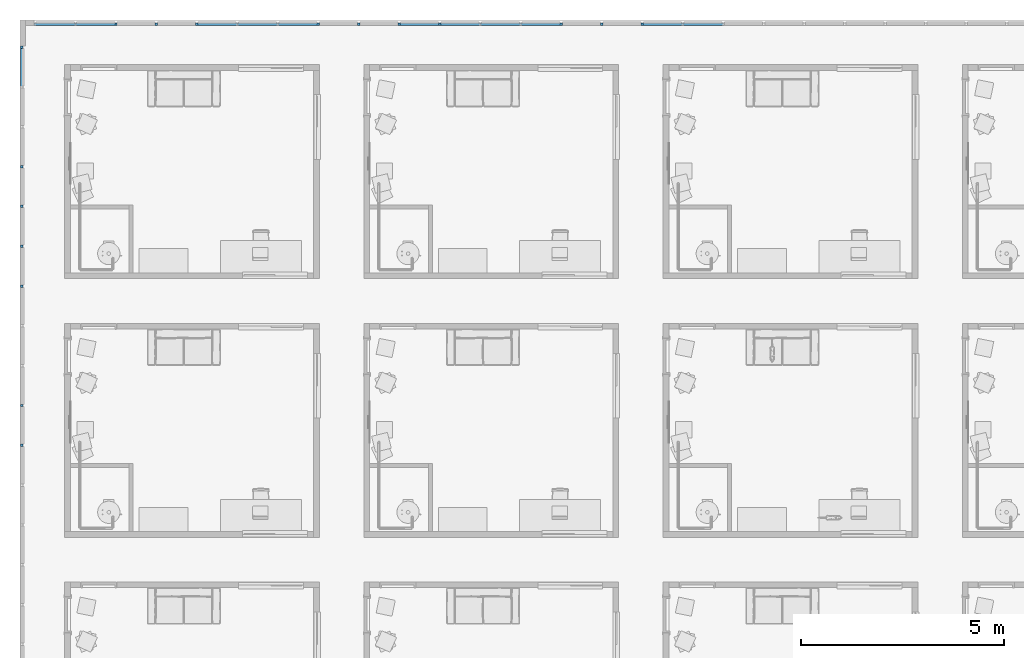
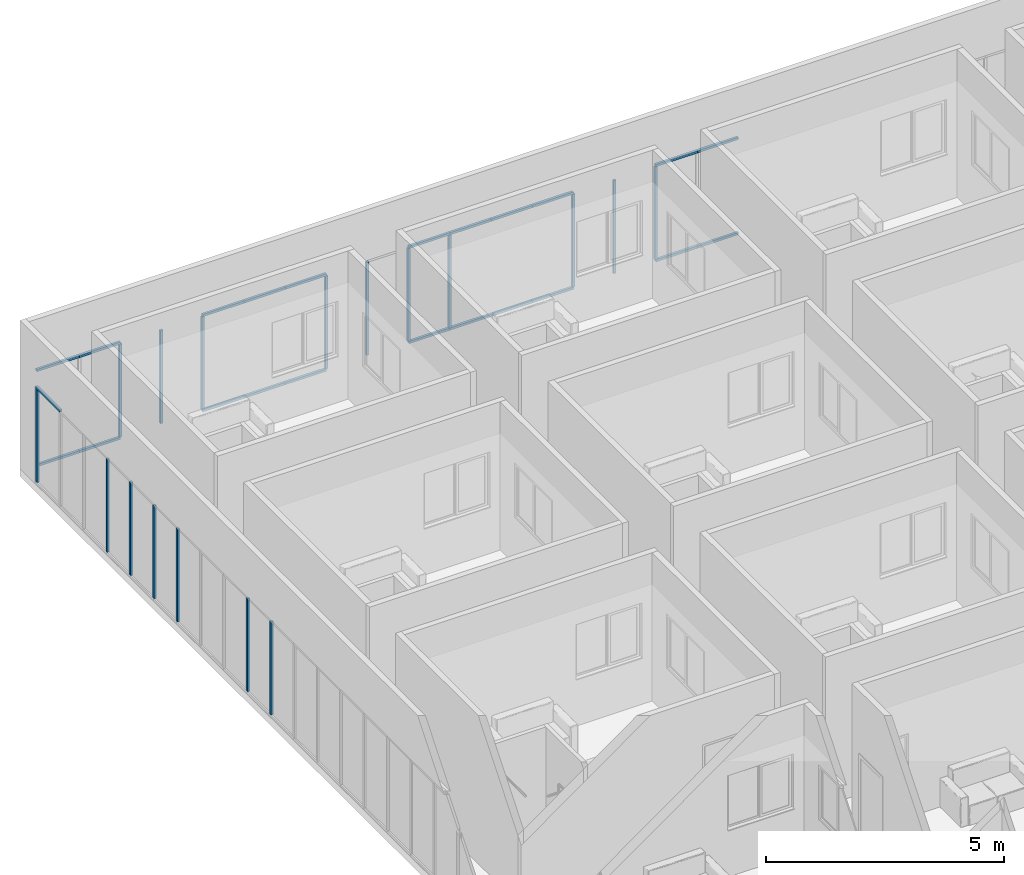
# One storey, part 2 of 71: 40 members, 2 elements without a shape of their own.
"""IFC4 building model written with IfcOpenShell, lengths in centimetres."""

from ifc_helpers import new_model, entity, si_unit, converted_unit, derived_unit, direction, frame, origin, place, context, subcontext, project, spatial, indexed_curve, outline, extrude, source, transform, mapped, material, type_object, type_shapes, element, aggregate, save


model = new_model("IFC4")

# Units and contexts
model_context = context("Model", 3, precision=0.001, world=origin(), true_north=direction((6.123233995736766e-17, 1.0)))
body_context = subcontext(model_context, "Body", "Model", "MODEL_VIEW")
ifc_project = project(units=[si_unit("LENGTHUNIT", "METRE", prefix="CENTI"), si_unit("AREAUNIT", "SQUARE_METRE"), si_unit("VOLUMEUNIT", "CUBIC_METRE"), derived_unit("THERMALTRANSMITTANCEUNIT", [(si_unit("MASSUNIT", "GRAM", prefix="KILO"), 1), (si_unit("THERMODYNAMICTEMPERATUREUNIT", "KELVIN"), -1), (si_unit("TIMEUNIT", "SECOND"), -3)]), converted_unit("PLANEANGLEUNIT", "DEGREE", entity("IfcPlaneAngleMeasure", 0.017453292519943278), si_unit("PLANEANGLEUNIT", "RADIAN"), dimensions=[0, 0, 0, 0, 0, 0, 0]), derived_unit("MASSDENSITYUNIT", [(si_unit("MASSUNIT", "GRAM", prefix="KILO"), 1), (si_unit("LENGTHUNIT", "METRE"), -3)]), derived_unit("VAPORPERMEABILITYUNIT", [(si_unit("LENGTHUNIT", "METRE"), -1), (si_unit("TIMEUNIT", "SECOND"), 1)]), derived_unit("USERDEFINED", [(si_unit("MASSUNIT", "GRAM", prefix="KILO"), 1), (si_unit("TIMEUNIT", "SECOND"), -3), (si_unit("LENGTHUNIT", "METRE"), 3), (si_unit("ELECTRICCURRENTUNIT", "AMPERE"), -2)]), derived_unit("SPECIFICHEATCAPACITYUNIT", [(si_unit("THERMODYNAMICTEMPERATUREUNIT", "KELVIN"), -1), (si_unit("LENGTHUNIT", "METRE"), 2), (si_unit("TIMEUNIT", "SECOND"), -2)]), derived_unit("THERMALCONDUCTANCEUNIT", [(si_unit("MASSUNIT", "GRAM", prefix="KILO"), 1), (si_unit("THERMODYNAMICTEMPERATUREUNIT", "KELVIN"), -1), (si_unit("TIMEUNIT", "SECOND"), -3), (si_unit("LENGTHUNIT", "METRE"), 1)]), si_unit("PRESSUREUNIT", "PASCAL"), derived_unit("MODULUSOFELASTICITYUNIT", [(si_unit("MASSUNIT", "GRAM", prefix="KILO"), 1), (si_unit("LENGTHUNIT", "METRE"), -1), (si_unit("TIMEUNIT", "SECOND"), -2)]), derived_unit("THERMALEXPANSIONCOEFFICIENTUNIT", [(si_unit("THERMODYNAMICTEMPERATUREUNIT", "KELVIN"), -1)])], contexts=[model_context])

# Site, building, storey
site_placement = place(None, origin())
site = spatial("IfcSite", under=ifc_project, at=site_placement, Name="Default", CompositionType="ELEMENT")
building_placement = place(site_placement, origin())
building = spatial("IfcBuilding", under=site, at=building_placement, Name="IDS Escape Game Building", CompositionType="ELEMENT")
storey_placement = place(building_placement, frame((0.0, 0.0, 1200.0)))
storey = spatial("IfcBuildingStorey", under=building, at=storey_placement, Name="03_Third Floor", CompositionType="ELEMENT", Elevation=1200.0)

# Curtain wall, members
curtain_wall_type = type_object("IfcCurtainWallType", Name="Curtain Wall:ARC_31.3_CWA_LIB_bandraam vast 100cm - profiel 60x60_gen_BERSnl", PredefinedType="NOTDEFINED")
curtain_wall_1_placement = place(storey_placement, frame((0.0, 0.0, -1200.0)))
curtain_wall_1 = element("IfcCurtainWall", 1, at=curtain_wall_1_placement, inside=storey, type_object=curtain_wall_type, Name="Curtain Wall:ARC_31.3_CWA_LIB_bandraam vast 100cm - profiel 60x60_gen_BERSnl", ObjectType="Curtain Wall:ARC_31.3_CWA_LIB_bandraam vast 100cm - profiel 60x60_gen_BERSnl", PredefinedType="NOTDEFINED")
ifc_material = material(Name="<Unnamed>")
member_type_1 = type_object("IfcMemberType", Name="Rectangular Mullion:30-_Stijl_Rechthoek_Midden_B60xD60", PredefinedType="MULLION", material=ifc_material)
shared_shape_1 = source(origin(), body_context, "Body", "SweptSolid", [
    extrude(outline(indexed_curve([(-3.0, -3.0), (3.0, -3.0), (3.0, 3.0), (-3.0, 3.0), (-3.0, -3.0)], self_intersect=False)), frame((-3.0, 3.0, -102.84313728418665), z_axis=(0.0, 0.0, 1.0), x_axis=(-1.0, 0.0, 0.0)), (0.0, 0.0, 1.0), 102.84313728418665),
])
type_shapes(member_type_1, [shared_shape_1])
member_1_placement = place(curtain_wall_1_placement, frame((19.84313728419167, 3182.0, 1450.0), z_axis=(1.0, 0.0, 0.0), x_axis=(0.0, 0.0, 1.0)))
member_1 = element("IfcMember", 2, at=member_1_placement, type_object=member_type_1, material=ifc_material, Name="Rectangular Mullion:30-_Stijl_Rechthoek_Midden_B60xD60", ObjectType="Rectangular Mullion:30-_Stijl_Rechthoek_Midden_B60xD60", PredefinedType="MULLION", context=body_context, shape_type="MappedRepresentation", body=[
    mapped(shared_shape_1, transform((0.0, 0.0, 0.0), scale=1.0)),
])
member_type_2 = type_object("IfcMemberType", Name="Rectangular Mullion:30-_Stijl_Rechthoek_Midden_B60xD60", PredefinedType="MULLION", material=ifc_material)
shared_shape_2 = source(origin(), body_context, "Body", "SweptSolid", [
    extrude(outline(indexed_curve([(-3.0, -3.0), (3.0, -3.0), (3.0, 3.0), (-3.0, 3.0), (-3.0, -3.0)], self_intersect=False)), frame((-3.0, 3.0, -99.84313725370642), z_axis=(0.0, 0.0, 1.0), x_axis=(-1.0, 0.0, 0.0)), (0.0, 0.0, 1.0), 99.84313725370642),
])
type_shapes(member_type_2, [shared_shape_2])
member_2_placement = place(curtain_wall_1_placement, frame((119.68627453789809, 3182.0, 1450.0), z_axis=(1.0, 0.0, 0.0), x_axis=(0.0, 0.0, 1.0)))
member_2 = element("IfcMember", 3, at=member_2_placement, type_object=member_type_2, material=ifc_material, Name="Rectangular Mullion:30-_Stijl_Rechthoek_Midden_B60xD60", ObjectType="Rectangular Mullion:30-_Stijl_Rechthoek_Midden_B60xD60", PredefinedType="MULLION", context=body_context, shape_type="MappedRepresentation", body=[
    mapped(shared_shape_2, transform((0.0, 0.0, 0.0), scale=1.0)),
])
member_3_placement = place(curtain_wall_1_placement, frame((419.2156862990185, 3182.0, 1450.0), z_axis=(1.0, 0.0, 0.0), x_axis=(0.0, 0.0, 1.0)))
member_3 = element("IfcMember", 4, at=member_3_placement, type_object=member_type_2, material=ifc_material, Name="Rectangular Mullion:30-_Stijl_Rechthoek_Midden_B60xD60", ObjectType="Rectangular Mullion:30-_Stijl_Rechthoek_Midden_B60xD60", PredefinedType="MULLION", context=body_context, shape_type="MappedRepresentation", body=[
    mapped(shared_shape_2, transform((0.0, 0.0, 0.0), scale=1.0)),
])
member_4_placement = place(curtain_wall_1_placement, frame((519.0588235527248, 3182.0, 1450.0), z_axis=(1.0, 0.0, 0.0), x_axis=(0.0, 0.0, 1.0)))
member_4 = element("IfcMember", 5, at=member_4_placement, type_object=member_type_2, material=ifc_material, Name="Rectangular Mullion:30-_Stijl_Rechthoek_Midden_B60xD60", ObjectType="Rectangular Mullion:30-_Stijl_Rechthoek_Midden_B60xD60", PredefinedType="MULLION", context=body_context, shape_type="MappedRepresentation", body=[
    mapped(shared_shape_2, transform((0.0, 0.0, 0.0), scale=1.0)),
])
member_5_placement = place(curtain_wall_1_placement, frame((618.9019608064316, 3182.0, 1450.0), z_axis=(1.0, 0.0, 0.0), x_axis=(0.0, 0.0, 1.0)))
member_5 = element("IfcMember", 6, at=member_5_placement, type_object=member_type_2, material=ifc_material, Name="Rectangular Mullion:30-_Stijl_Rechthoek_Midden_B60xD60", ObjectType="Rectangular Mullion:30-_Stijl_Rechthoek_Midden_B60xD60", PredefinedType="MULLION", context=body_context, shape_type="MappedRepresentation", body=[
    mapped(shared_shape_2, transform((0.0, 0.0, 0.0), scale=1.0)),
])
member_6_placement = place(curtain_wall_1_placement, frame((918.4313725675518, 3182.0, 1450.0), z_axis=(1.0, 0.0, 0.0), x_axis=(0.0, 0.0, 1.0)))
member_6 = element("IfcMember", 7, at=member_6_placement, type_object=member_type_2, material=ifc_material, Name="Rectangular Mullion:30-_Stijl_Rechthoek_Midden_B60xD60", ObjectType="Rectangular Mullion:30-_Stijl_Rechthoek_Midden_B60xD60", PredefinedType="MULLION", context=body_context, shape_type="MappedRepresentation", body=[
    mapped(shared_shape_2, transform((0.0, 0.0, 0.0), scale=1.0)),
])
member_7_placement = place(curtain_wall_1_placement, frame((1018.2745098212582, 3182.0, 1450.0), z_axis=(1.0, 0.0, 0.0), x_axis=(0.0, 0.0, 1.0)))
member_7 = element("IfcMember", 8, at=member_7_placement, type_object=member_type_2, material=ifc_material, Name="Rectangular Mullion:30-_Stijl_Rechthoek_Midden_B60xD60", ObjectType="Rectangular Mullion:30-_Stijl_Rechthoek_Midden_B60xD60", PredefinedType="MULLION", context=body_context, shape_type="MappedRepresentation", body=[
    mapped(shared_shape_2, transform((0.0, 0.0, 0.0), scale=1.0)),
])
member_8_placement = place(curtain_wall_1_placement, frame((1118.1176470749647, 3182.0, 1450.0), z_axis=(1.0, 0.0, 0.0), x_axis=(0.0, 0.0, 1.0)))
member_8 = element("IfcMember", 9, at=member_8_placement, type_object=member_type_2, material=ifc_material, Name="Rectangular Mullion:30-_Stijl_Rechthoek_Midden_B60xD60", ObjectType="Rectangular Mullion:30-_Stijl_Rechthoek_Midden_B60xD60", PredefinedType="MULLION", context=body_context, shape_type="MappedRepresentation", body=[
    mapped(shared_shape_2, transform((0.0, 0.0, 0.0), scale=1.0)),
])
member_9_placement = place(curtain_wall_1_placement, frame((1217.960784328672, 3182.0, 1450.0), z_axis=(1.0, 0.0, 0.0), x_axis=(0.0, 0.0, 1.0)))
member_9 = element("IfcMember", 10, at=member_9_placement, type_object=member_type_2, material=ifc_material, Name="Rectangular Mullion:30-_Stijl_Rechthoek_Midden_B60xD60", ObjectType="Rectangular Mullion:30-_Stijl_Rechthoek_Midden_B60xD60", PredefinedType="MULLION", context=body_context, shape_type="MappedRepresentation", body=[
    mapped(shared_shape_2, transform((0.0, 0.0, 0.0), scale=1.0)),
])
member_10_placement = place(curtain_wall_1_placement, frame((1517.490196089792, 3182.0, 1450.0), z_axis=(1.0, 0.0, 0.0), x_axis=(0.0, 0.0, 1.0)))
member_10 = element("IfcMember", 11, at=member_10_placement, type_object=member_type_2, material=ifc_material, Name="Rectangular Mullion:30-_Stijl_Rechthoek_Midden_B60xD60", ObjectType="Rectangular Mullion:30-_Stijl_Rechthoek_Midden_B60xD60", PredefinedType="MULLION", context=body_context, shape_type="MappedRepresentation", body=[
    mapped(shared_shape_2, transform((0.0, 0.0, 0.0), scale=1.0)),
])
member_11_placement = place(curtain_wall_1_placement, frame((1617.3333333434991, 3182.0, 1450.0), z_axis=(1.0, 0.0, 0.0), x_axis=(0.0, 0.0, 1.0)))
member_11 = element("IfcMember", 12, at=member_11_placement, type_object=member_type_2, material=ifc_material, Name="Rectangular Mullion:30-_Stijl_Rechthoek_Midden_B60xD60", ObjectType="Rectangular Mullion:30-_Stijl_Rechthoek_Midden_B60xD60", PredefinedType="MULLION", context=body_context, shape_type="MappedRepresentation", body=[
    mapped(shared_shape_2, transform((0.0, 0.0, 0.0), scale=1.0)),
])
member_type_3 = type_object("IfcMemberType", Name="Rectangular Mullion:30-_Stijl_Rechthoek_Midden_B60xD60", PredefinedType="MULLION", material=ifc_material)
shared_shape_3 = source(origin(), body_context, "Body", "SweptSolid", [
    extrude(outline(indexed_curve([(-3.0, -3.0), (3.0, -3.0), (3.0, 3.0), (-3.0, 3.0), (-3.0, -3.0)], self_intersect=False)), frame((-3.0, 3.0, -102.84313728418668), z_axis=(0.0, 0.0, 1.0), x_axis=(-1.0, 0.0, 0.0)), (0.0, 0.0, 1.0), 102.84313728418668),
])
type_shapes(member_type_3, [shared_shape_3])
member_12_placement = place(curtain_wall_1_placement, frame((-83.0, 3182.0, 1200.0), z_axis=(-1.0, 0.0, 0.0), x_axis=(0.0, 0.0, -1.0)))
member_12 = element("IfcMember", 13, at=member_12_placement, type_object=member_type_3, material=ifc_material, Name="Rectangular Mullion:30-_Stijl_Rechthoek_Midden_B60xD60", ObjectType="Rectangular Mullion:30-_Stijl_Rechthoek_Midden_B60xD60", PredefinedType="MULLION", context=body_context, shape_type="MappedRepresentation", body=[
    mapped(shared_shape_3, transform((0.0, 0.0, 0.0), scale=1.0)),
])
member_type_4 = type_object("IfcMemberType", Name="Rectangular Mullion:30-_Stijl_Rechthoek_Midden_B60xD60", PredefinedType="MULLION", material=ifc_material)
shared_shape_4 = source(origin(), body_context, "Body", "SweptSolid", [
    extrude(outline(indexed_curve([(-3.0, -3.0), (3.0, -3.0), (3.0, 3.0), (-3.0, 3.0), (-3.0, -3.0)], self_intersect=False)), frame((-3.0, 3.0, -99.84313725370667), z_axis=(0.0, 0.0, 1.0), x_axis=(-1.0, 0.0, 0.0)), (0.0, 0.0, 1.0), 99.84313725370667),
])
type_shapes(member_type_4, [shared_shape_4])
member_13_placement = place(curtain_wall_1_placement, frame((19.843137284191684, 3182.0, 1200.0), z_axis=(-1.0, 0.0, 0.0), x_axis=(0.0, 0.0, -1.0)))
member_13 = element("IfcMember", 14, at=member_13_placement, type_object=member_type_4, material=ifc_material, Name="Rectangular Mullion:30-_Stijl_Rechthoek_Midden_B60xD60", ObjectType="Rectangular Mullion:30-_Stijl_Rechthoek_Midden_B60xD60", PredefinedType="MULLION", context=body_context, shape_type="MappedRepresentation", body=[
    mapped(shared_shape_4, transform((0.0, 0.0, 0.0), scale=1.0)),
])
member_14_placement = place(curtain_wall_1_placement, frame((319.3725490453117, 3182.0, 1200.0), z_axis=(-1.0, 0.0, 0.0), x_axis=(0.0, 0.0, -1.0)))
member_14 = element("IfcMember", 15, at=member_14_placement, type_object=member_type_4, material=ifc_material, Name="Rectangular Mullion:30-_Stijl_Rechthoek_Midden_B60xD60", ObjectType="Rectangular Mullion:30-_Stijl_Rechthoek_Midden_B60xD60", PredefinedType="MULLION", context=body_context, shape_type="MappedRepresentation", body=[
    mapped(shared_shape_4, transform((0.0, 0.0, 0.0), scale=1.0)),
])
member_15_placement = place(curtain_wall_1_placement, frame((419.2156862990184, 3182.0, 1200.0), z_axis=(-1.0, 0.0, 0.0), x_axis=(0.0, 0.0, -1.0)))
member_15 = element("IfcMember", 16, at=member_15_placement, type_object=member_type_4, material=ifc_material, Name="Rectangular Mullion:30-_Stijl_Rechthoek_Midden_B60xD60", ObjectType="Rectangular Mullion:30-_Stijl_Rechthoek_Midden_B60xD60", PredefinedType="MULLION", context=body_context, shape_type="MappedRepresentation", body=[
    mapped(shared_shape_4, transform((0.0, 0.0, 0.0), scale=1.0)),
])
member_16_placement = place(curtain_wall_1_placement, frame((519.0588235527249, 3182.0, 1200.0), z_axis=(-1.0, 0.0, 0.0), x_axis=(0.0, 0.0, -1.0)))
member_16 = element("IfcMember", 17, at=member_16_placement, type_object=member_type_4, material=ifc_material, Name="Rectangular Mullion:30-_Stijl_Rechthoek_Midden_B60xD60", ObjectType="Rectangular Mullion:30-_Stijl_Rechthoek_Midden_B60xD60", PredefinedType="MULLION", context=body_context, shape_type="MappedRepresentation", body=[
    mapped(shared_shape_4, transform((0.0, 0.0, 0.0), scale=1.0)),
])
member_17_placement = place(curtain_wall_1_placement, frame((818.5882353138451, 3182.0, 1200.0), z_axis=(-1.0, 0.0, 0.0), x_axis=(0.0, 0.0, -1.0)))
member_17 = element("IfcMember", 18, at=member_17_placement, type_object=member_type_4, material=ifc_material, Name="Rectangular Mullion:30-_Stijl_Rechthoek_Midden_B60xD60", ObjectType="Rectangular Mullion:30-_Stijl_Rechthoek_Midden_B60xD60", PredefinedType="MULLION", context=body_context, shape_type="MappedRepresentation", body=[
    mapped(shared_shape_4, transform((0.0, 0.0, 0.0), scale=1.0)),
])
member_18_placement = place(curtain_wall_1_placement, frame((918.4313725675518, 3182.0, 1200.0), z_axis=(-1.0, 0.0, 0.0), x_axis=(0.0, 0.0, -1.0)))
member_18 = element("IfcMember", 19, at=member_18_placement, type_object=member_type_4, material=ifc_material, Name="Rectangular Mullion:30-_Stijl_Rechthoek_Midden_B60xD60", ObjectType="Rectangular Mullion:30-_Stijl_Rechthoek_Midden_B60xD60", PredefinedType="MULLION", context=body_context, shape_type="MappedRepresentation", body=[
    mapped(shared_shape_4, transform((0.0, 0.0, 0.0), scale=1.0)),
])
member_19_placement = place(curtain_wall_1_placement, frame((1018.2745098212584, 3182.0, 1200.0), z_axis=(-1.0, 0.0, 0.0), x_axis=(0.0, 0.0, -1.0)))
member_19 = element("IfcMember", 20, at=member_19_placement, type_object=member_type_4, material=ifc_material, Name="Rectangular Mullion:30-_Stijl_Rechthoek_Midden_B60xD60", ObjectType="Rectangular Mullion:30-_Stijl_Rechthoek_Midden_B60xD60", PredefinedType="MULLION", context=body_context, shape_type="MappedRepresentation", body=[
    mapped(shared_shape_4, transform((0.0, 0.0, 0.0), scale=1.0)),
])
member_20_placement = place(curtain_wall_1_placement, frame((1118.1176470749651, 3182.0, 1200.0), z_axis=(-1.0, 0.0, 0.0), x_axis=(0.0, 0.0, -1.0)))
member_20 = element("IfcMember", 21, at=member_20_placement, type_object=member_type_4, material=ifc_material, Name="Rectangular Mullion:30-_Stijl_Rechthoek_Midden_B60xD60", ObjectType="Rectangular Mullion:30-_Stijl_Rechthoek_Midden_B60xD60", PredefinedType="MULLION", context=body_context, shape_type="MappedRepresentation", body=[
    mapped(shared_shape_4, transform((0.0, 0.0, 0.0), scale=1.0)),
])
member_21_placement = place(curtain_wall_1_placement, frame((1417.6470588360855, 3182.0, 1200.0), z_axis=(-1.0, 0.0, 0.0), x_axis=(0.0, 0.0, -1.0)))
member_21 = element("IfcMember", 22, at=member_21_placement, type_object=member_type_4, material=ifc_material, Name="Rectangular Mullion:30-_Stijl_Rechthoek_Midden_B60xD60", ObjectType="Rectangular Mullion:30-_Stijl_Rechthoek_Midden_B60xD60", PredefinedType="MULLION", context=body_context, shape_type="MappedRepresentation", body=[
    mapped(shared_shape_4, transform((0.0, 0.0, 0.0), scale=1.0)),
])
member_22_placement = place(curtain_wall_1_placement, frame((1517.4901960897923, 3182.0, 1200.0), z_axis=(-1.0, 0.0, 0.0), x_axis=(0.0, 0.0, -1.0)))
member_22 = element("IfcMember", 23, at=member_22_placement, type_object=member_type_4, material=ifc_material, Name="Rectangular Mullion:30-_Stijl_Rechthoek_Midden_B60xD60", ObjectType="Rectangular Mullion:30-_Stijl_Rechthoek_Midden_B60xD60", PredefinedType="MULLION", context=body_context, shape_type="MappedRepresentation", body=[
    mapped(shared_shape_4, transform((0.0, 0.0, 0.0), scale=1.0)),
])

# Curtain wall, member
curtain_wall_2_placement = place(storey_placement, frame((0.0, 0.0, -1200.0)))
curtain_wall_2 = element("IfcCurtainWall", 24, at=curtain_wall_2_placement, inside=storey, type_object=curtain_wall_type, Name="Curtain Wall:ARC_31.3_CWA_LIB_bandraam vast 100cm - profiel 60x60_gen_BERSnl", ObjectType="Curtain Wall:ARC_31.3_CWA_LIB_bandraam vast 100cm - profiel 60x60_gen_BERSnl", PredefinedType="NOTDEFINED")
member_type_5 = type_object("IfcMemberType", Name="Rectangular Mullion:30-_Stijl_Rechthoek_Midden_B60xD60", PredefinedType="MULLION", material=ifc_material)
shared_shape_5 = source(origin(), body_context, "Body", "SweptSolid", [
    extrude(outline(indexed_curve([(-3.0, -3.0), (3.0, -3.0), (3.0, 3.0), (-3.0, 3.0), (-3.0, -3.0)], self_intersect=False)), frame((-3.0, 3.0, -238.0), z_axis=(0.0, 0.0, 1.0), x_axis=(-1.0, 0.0, 0.0)), (0.0, 0.0, 1.0), 238.00000000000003),
])
type_shapes(member_type_5, [shared_shape_5])
member_23_placement = place(curtain_wall_2_placement, frame((-110.0, 3125.0, 1444.0), z_axis=(0.0, 0.0, 1.0), x_axis=(0.0, 1.0, 0.0)))
member_23 = element("IfcMember", 25, at=member_23_placement, type_object=member_type_5, material=ifc_material, Name="Rectangular Mullion:30-_Stijl_Rechthoek_Midden_B60xD60", ObjectType="Rectangular Mullion:30-_Stijl_Rechthoek_Midden_B60xD60", PredefinedType="MULLION", context=body_context, shape_type="MappedRepresentation", body=[
    mapped(shared_shape_5, transform((0.0, 0.0, 0.0), scale=1.0)),
])

# Member
member_type_6 = type_object("IfcMemberType", Name="Rectangular Mullion:30-_Stijl_Rechthoek_Midden_B60xD60", PredefinedType="MULLION", material=ifc_material)
shared_shape_6 = source(origin(), body_context, "Body", "SweptSolid", [
    extrude(outline(indexed_curve([(-3.0, -3.0), (3.0, -3.0), (3.0, 3.0), (-3.0, 3.0), (-3.0, -3.0)], self_intersect=False)), frame((0.0, 3.0, -238.0), z_axis=(0.0, 0.0, 1.0), x_axis=(-1.0, 0.0, 0.0)), (0.0, 0.0, 1.0), 238.00000000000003),
])
type_shapes(member_type_6, [shared_shape_6])
member_24_placement = place(curtain_wall_1_placement, frame((119.68627453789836, 3182.0, 1206.0), z_axis=(0.0, 0.0, -1.0), x_axis=(1.0, 0.0, 0.0)))
member_24 = element("IfcMember", 26, at=member_24_placement, type_object=member_type_6, material=ifc_material, Name="Rectangular Mullion:30-_Stijl_Rechthoek_Midden_B60xD60", ObjectType="Rectangular Mullion:30-_Stijl_Rechthoek_Midden_B60xD60", PredefinedType="MULLION", context=body_context, shape_type="MappedRepresentation", body=[
    mapped(shared_shape_6, transform((0.0, 0.0, 0.0), scale=1.0)),
])

member_25_placement = place(curtain_wall_1_placement, frame((219.52941179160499, 3182.0, 1206.0), z_axis=(0.0, 0.0, -1.0), x_axis=(1.0, 0.0, 0.0)))
member_25 = element("IfcMember", 27, at=member_25_placement, type_object=member_type_6, material=ifc_material, Name="Rectangular Mullion:30-_Stijl_Rechthoek_Midden_B60xD60", ObjectType="Rectangular Mullion:30-_Stijl_Rechthoek_Midden_B60xD60", PredefinedType="MULLION", context=body_context, shape_type="MappedRepresentation", body=[
    mapped(shared_shape_6, transform((0.0, 0.0, 0.0), scale=1.0)),
])

member_26_placement = place(curtain_wall_1_placement, frame((319.3725490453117, 3182.0, 1206.0), z_axis=(0.0, 0.0, -1.0), x_axis=(1.0, 0.0, 0.0)))
member_26 = element("IfcMember", 28, at=member_26_placement, type_object=member_type_6, material=ifc_material, Name="Rectangular Mullion:30-_Stijl_Rechthoek_Midden_B60xD60", ObjectType="Rectangular Mullion:30-_Stijl_Rechthoek_Midden_B60xD60", PredefinedType="MULLION", context=body_context, shape_type="MappedRepresentation", body=[
    mapped(shared_shape_6, transform((0.0, 0.0, 0.0), scale=1.0)),
])

member_27_placement = place(curtain_wall_1_placement, frame((618.9019608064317, 3182.0, 1206.0), z_axis=(0.0, 0.0, -1.0), x_axis=(1.0, 0.0, 0.0)))
member_27 = element("IfcMember", 29, at=member_27_placement, type_object=member_type_6, material=ifc_material, Name="Rectangular Mullion:30-_Stijl_Rechthoek_Midden_B60xD60", ObjectType="Rectangular Mullion:30-_Stijl_Rechthoek_Midden_B60xD60", PredefinedType="MULLION", context=body_context, shape_type="MappedRepresentation", body=[
    mapped(shared_shape_6, transform((0.0, 0.0, 0.0), scale=1.0)),
])

member_28_placement = place(curtain_wall_1_placement, frame((718.7450980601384, 3182.0, 1206.0), z_axis=(0.0, 0.0, -1.0), x_axis=(1.0, 0.0, 0.0)))
member_28 = element("IfcMember", 30, at=member_28_placement, type_object=member_type_6, material=ifc_material, Name="Rectangular Mullion:30-_Stijl_Rechthoek_Midden_B60xD60", ObjectType="Rectangular Mullion:30-_Stijl_Rechthoek_Midden_B60xD60", PredefinedType="MULLION", context=body_context, shape_type="MappedRepresentation", body=[
    mapped(shared_shape_6, transform((0.0, 0.0, 0.0), scale=1.0)),
])

member_29_placement = place(curtain_wall_1_placement, frame((818.5882353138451, 3182.0, 1206.0), z_axis=(0.0, 0.0, -1.0), x_axis=(1.0, 0.0, 0.0)))
member_29 = element("IfcMember", 31, at=member_29_placement, type_object=member_type_6, material=ifc_material, Name="Rectangular Mullion:30-_Stijl_Rechthoek_Midden_B60xD60", ObjectType="Rectangular Mullion:30-_Stijl_Rechthoek_Midden_B60xD60", PredefinedType="MULLION", context=body_context, shape_type="MappedRepresentation", body=[
    mapped(shared_shape_6, transform((0.0, 0.0, 0.0), scale=1.0)),
])

member_30_placement = place(curtain_wall_1_placement, frame((918.4313725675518, 3182.0, 1206.0), z_axis=(0.0, 0.0, -1.0), x_axis=(1.0, 0.0, 0.0)))
member_30 = element("IfcMember", 32, at=member_30_placement, type_object=member_type_6, material=ifc_material, Name="Rectangular Mullion:30-_Stijl_Rechthoek_Midden_B60xD60", ObjectType="Rectangular Mullion:30-_Stijl_Rechthoek_Midden_B60xD60", PredefinedType="MULLION", context=body_context, shape_type="MappedRepresentation", body=[
    mapped(shared_shape_6, transform((0.0, 0.0, 0.0), scale=1.0)),
])

member_31_placement = place(curtain_wall_1_placement, frame((1217.960784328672, 3182.0, 1206.0), z_axis=(0.0, 0.0, -1.0), x_axis=(1.0, 0.0, 0.0)))
member_31 = element("IfcMember", 33, at=member_31_placement, type_object=member_type_6, material=ifc_material, Name="Rectangular Mullion:30-_Stijl_Rechthoek_Midden_B60xD60", ObjectType="Rectangular Mullion:30-_Stijl_Rechthoek_Midden_B60xD60", PredefinedType="MULLION", context=body_context, shape_type="MappedRepresentation", body=[
    mapped(shared_shape_6, transform((0.0, 0.0, 0.0), scale=1.0)),
])

member_32_placement = place(curtain_wall_1_placement, frame((1317.8039215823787, 3182.0, 1206.0), z_axis=(0.0, 0.0, -1.0), x_axis=(1.0, 0.0, 0.0)))
member_32 = element("IfcMember", 34, at=member_32_placement, type_object=member_type_6, material=ifc_material, Name="Rectangular Mullion:30-_Stijl_Rechthoek_Midden_B60xD60", ObjectType="Rectangular Mullion:30-_Stijl_Rechthoek_Midden_B60xD60", PredefinedType="MULLION", context=body_context, shape_type="MappedRepresentation", body=[
    mapped(shared_shape_6, transform((0.0, 0.0, 0.0), scale=1.0)),
])

member_33_placement = place(curtain_wall_1_placement, frame((1417.6470588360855, 3182.0, 1206.0), z_axis=(0.0, 0.0, -1.0), x_axis=(1.0, 0.0, 0.0)))
member_33 = element("IfcMember", 35, at=member_33_placement, type_object=member_type_6, material=ifc_material, Name="Rectangular Mullion:30-_Stijl_Rechthoek_Midden_B60xD60", ObjectType="Rectangular Mullion:30-_Stijl_Rechthoek_Midden_B60xD60", PredefinedType="MULLION", context=body_context, shape_type="MappedRepresentation", body=[
    mapped(shared_shape_6, transform((0.0, 0.0, 0.0), scale=1.0)),
])

aggregate(curtain_wall_1, [member_1, member_2, member_3, member_4, member_5, member_6, member_7, member_8, member_9, member_10, member_11, member_12, member_13, member_14, member_15, member_16, member_17, member_18, member_19, member_20, member_21, member_22, member_24, member_25, member_26, member_27, member_28, member_29, member_30, member_31, member_32, member_33])

member_34_placement = place(curtain_wall_2_placement, frame((-110.0, 2827.4193548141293, 1206.0), z_axis=(0.0, 0.0, -1.0), x_axis=(0.0, -1.0, 0.0)))
member_34 = element("IfcMember", 36, at=member_34_placement, type_object=member_type_6, material=ifc_material, Name="Rectangular Mullion:30-_Stijl_Rechthoek_Midden_B60xD60", ObjectType="Rectangular Mullion:30-_Stijl_Rechthoek_Midden_B60xD60", PredefinedType="MULLION", context=body_context, shape_type="MappedRepresentation", body=[
    mapped(shared_shape_6, transform((0.0, 0.0, 0.0), scale=1.0)),
])

member_35_placement = place(curtain_wall_2_placement, frame((-110.0, 2729.2258064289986, 1206.0), z_axis=(0.0, 0.0, -1.0), x_axis=(0.0, -1.0, 0.0)))
member_35 = element("IfcMember", 37, at=member_35_placement, type_object=member_type_6, material=ifc_material, Name="Rectangular Mullion:30-_Stijl_Rechthoek_Midden_B60xD60", ObjectType="Rectangular Mullion:30-_Stijl_Rechthoek_Midden_B60xD60", PredefinedType="MULLION", context=body_context, shape_type="MappedRepresentation", body=[
    mapped(shared_shape_6, transform((0.0, 0.0, 0.0), scale=1.0)),
])

member_36_placement = place(curtain_wall_2_placement, frame((-110.0, 2631.0322580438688, 1206.0), z_axis=(0.0, 0.0, -1.0), x_axis=(0.0, -1.0, 0.0)))
member_36 = element("IfcMember", 38, at=member_36_placement, type_object=member_type_6, material=ifc_material, Name="Rectangular Mullion:30-_Stijl_Rechthoek_Midden_B60xD60", ObjectType="Rectangular Mullion:30-_Stijl_Rechthoek_Midden_B60xD60", PredefinedType="MULLION", context=body_context, shape_type="MappedRepresentation", body=[
    mapped(shared_shape_6, transform((0.0, 0.0, 0.0), scale=1.0)),
])

member_37_placement = place(curtain_wall_2_placement, frame((-110.0, 2532.8387096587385, 1206.0), z_axis=(0.0, 0.0, -1.0), x_axis=(0.0, -1.0, 0.0)))
member_37 = element("IfcMember", 39, at=member_37_placement, type_object=member_type_6, material=ifc_material, Name="Rectangular Mullion:30-_Stijl_Rechthoek_Midden_B60xD60", ObjectType="Rectangular Mullion:30-_Stijl_Rechthoek_Midden_B60xD60", PredefinedType="MULLION", context=body_context, shape_type="MappedRepresentation", body=[
    mapped(shared_shape_6, transform((0.0, 0.0, 0.0), scale=1.0)),
])

member_38_placement = place(curtain_wall_2_placement, frame((-110.0, 2238.258064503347, 1206.0), z_axis=(0.0, 0.0, -1.0), x_axis=(0.0, -1.0, 0.0)))
member_38 = element("IfcMember", 40, at=member_38_placement, type_object=member_type_6, material=ifc_material, Name="Rectangular Mullion:30-_Stijl_Rechthoek_Midden_B60xD60", ObjectType="Rectangular Mullion:30-_Stijl_Rechthoek_Midden_B60xD60", PredefinedType="MULLION", context=body_context, shape_type="MappedRepresentation", body=[
    mapped(shared_shape_6, transform((0.0, 0.0, 0.0), scale=1.0)),
])

member_39_placement = place(curtain_wall_2_placement, frame((-110.0, 2140.0645161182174, 1206.0), z_axis=(0.0, 0.0, -1.0), x_axis=(0.0, -1.0, 0.0)))
member_39 = element("IfcMember", 41, at=member_39_placement, type_object=member_type_6, material=ifc_material, Name="Rectangular Mullion:30-_Stijl_Rechthoek_Midden_B60xD60", ObjectType="Rectangular Mullion:30-_Stijl_Rechthoek_Midden_B60xD60", PredefinedType="MULLION", context=body_context, shape_type="MappedRepresentation", body=[
    mapped(shared_shape_6, transform((0.0, 0.0, 0.0), scale=1.0)),
])

member_type_7 = type_object("IfcMemberType", Name="Rectangular Mullion:30-_Stijl_Rechthoek_Midden_B60xD60", PredefinedType="MULLION", material=ifc_material)
shared_shape_7 = source(origin(), body_context, "Body", "SweptSolid", [
    extrude(outline(indexed_curve([(-3.0, -3.0), (3.0, -3.0), (3.0, 3.0), (-3.0, 3.0), (-3.0, -3.0)], self_intersect=False)), frame((-3.0, 3.0, -101.1935484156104), z_axis=(0.0, 0.0, 1.0), x_axis=(-1.0, 0.0, 0.0)), (0.0, 0.0, 1.0), 101.1935484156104),
])
type_shapes(member_type_7, [shared_shape_7])
member_40_placement = place(curtain_wall_2_placement, frame((-110.0, 3023.80645158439, 1450.0), z_axis=(0.0, -1.0, 0.0), x_axis=(0.0, 0.0, 1.0)))
member_40 = element("IfcMember", 42, at=member_40_placement, type_object=member_type_7, material=ifc_material, Name="Rectangular Mullion:30-_Stijl_Rechthoek_Midden_B60xD60", ObjectType="Rectangular Mullion:30-_Stijl_Rechthoek_Midden_B60xD60", PredefinedType="MULLION", context=body_context, shape_type="MappedRepresentation", body=[
    mapped(shared_shape_7, transform((0.0, 0.0, 0.0), scale=1.0)),
])

aggregate(curtain_wall_2, [member_40, member_23, member_34, member_35, member_36, member_37, member_38, member_39])

save(model, "model.ifc")
